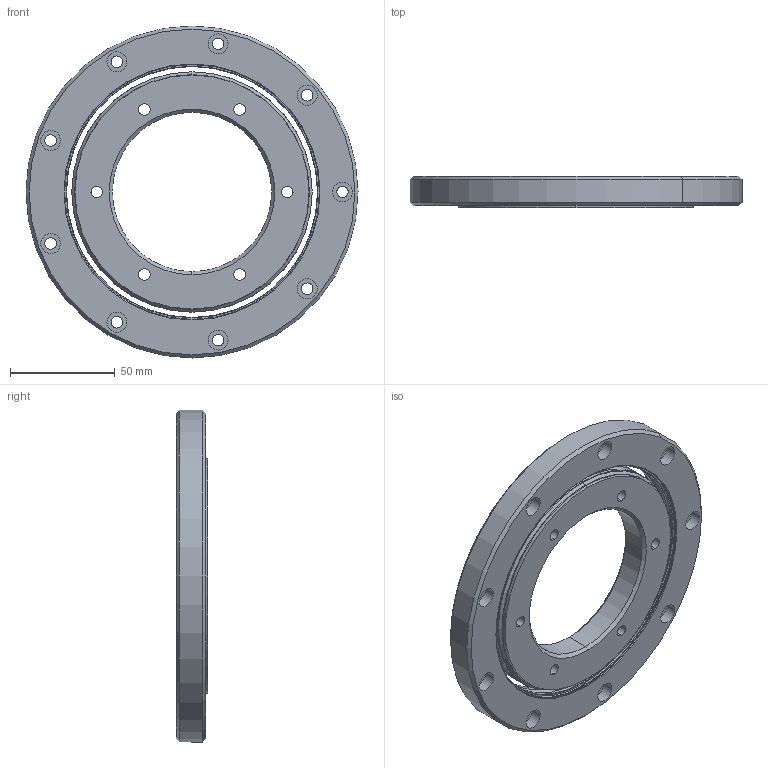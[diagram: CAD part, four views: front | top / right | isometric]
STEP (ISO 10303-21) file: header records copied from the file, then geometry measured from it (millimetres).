
FILE_DESCRIPTION (( 'STEP AP214' ), '1' );
FILE_NAME ('TTS2-077-160-15 Bearing Assembly.STEP', '2018-03-14T15:10:09', ( 'Admin' ), ( '' ), 'SwSTEP 2.0', 'SolidWorks 2018', '' );
FILE_SCHEMA (( 'AUTOMOTIVE_DESIGN' ));
Length unit declared in the file: inch
Products named in the file (3): TTS2 Outer Ring_TTS2-077-160-15; TTS2 Inner Ring_TTS2-077-160-15; TTS2-077-160-15 Bearing Assembly
Assembly tree (2 placements, depth 2):
  TTS2-077-160-15 Bearing Assembly
    TTS2 Inner Ring_TTS2-077-160-15
    TTS2 Outer Ring_TTS2-077-160-15
Bounding box: 158.75 x 15 x 158.75 mm (x, y, z)
Volume: 183071.1 mm3; surface area: 51960.7 mm2
Topology: 2 solids, 2 shells, 155 faces, 340 edges, 206 vertices
Faces by surface type: cylinder 84, cone 28, torus 22, plane 21
Entity records: 4498 total; most frequent: DIRECTION 888, CARTESIAN_POINT 706, ORIENTED_EDGE 680, AXIS2_PLACEMENT_3D 388, EDGE_CURVE 340, CIRCLE 228, EDGE_LOOP 206, VERTEX_POINT 206
